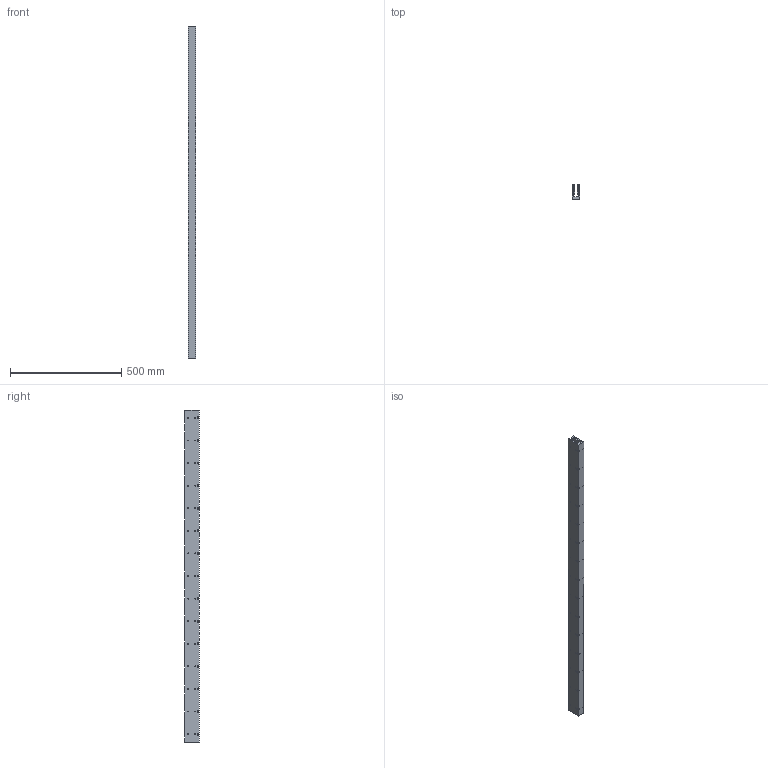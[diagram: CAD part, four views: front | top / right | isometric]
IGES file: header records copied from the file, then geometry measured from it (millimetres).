
Global section: file name: No Iges File Name specified; native system: Autodesk Inventor 2009; preprocessor: AutoDesk Inventor Iges Exporter R2009; author: je17857; date: 20091116.111743; units: inch
Bounding box: 34.29 x 67.31 x 1493.52 mm (x, y, z)
Volume: 2232604.6 mm3; surface area: 561863.5 mm2
Topology: 1 solids, 1 shells, 770 faces, 1830 edges, 1220 vertices
Faces by surface type: plane 530, bspline 240
